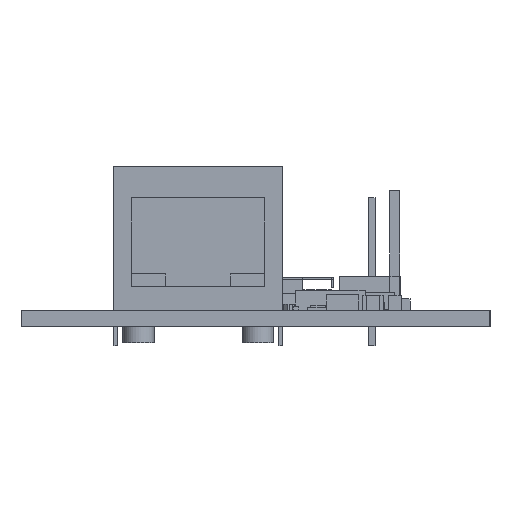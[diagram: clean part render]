
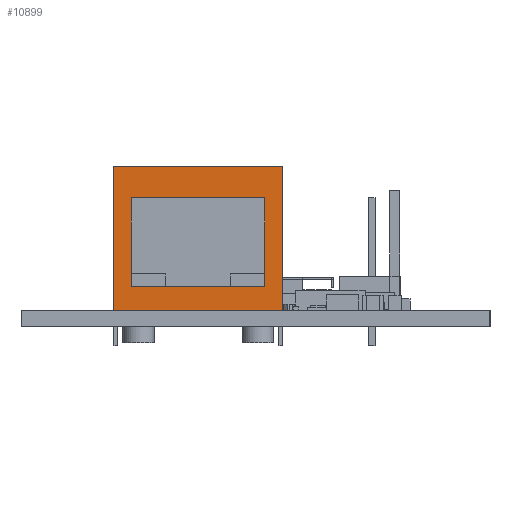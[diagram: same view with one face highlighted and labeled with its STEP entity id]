
A CAD part, left-side view. The second image highlights one B-rep face of the part: STEP entity #10899.
In plain terms, the highlighted planar face has unit normal (-1, 0, 0).
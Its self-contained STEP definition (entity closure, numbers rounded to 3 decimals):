
#10820=DIRECTION('',(0.,0.,-1.));
#10821=VECTOR('',#10820,13.84);
#10822=CARTESIAN_POINT('',(-10.8,-8.13,13.84));
#10823=LINE('',#10822,#10821);
#10824=DIRECTION('',(0.,1.,0.));
#10825=VECTOR('',#10824,16.26);
#10826=CARTESIAN_POINT('',(-10.8,-8.13,0.));
#10827=LINE('',#10826,#10825);
#10828=DIRECTION('',(0.,0.,-1.));
#10829=VECTOR('',#10828,13.84);
#10830=CARTESIAN_POINT('',(-10.8,8.13,13.84));
#10831=LINE('',#10830,#10829);
#10852=DIRECTION('',(0.,-1.,0.));
#10853=VECTOR('',#10852,16.26);
#10854=CARTESIAN_POINT('',(-10.8,8.13,13.84));
#10855=LINE('',#10854,#10853);
#10868=CARTESIAN_POINT('',(-10.8,8.13,13.84));
#10869=CARTESIAN_POINT('',(-10.8,8.13,0.));
#10870=VERTEX_POINT('',#10868);
#10871=VERTEX_POINT('',#10869);
#10872=CARTESIAN_POINT('',(-10.8,-8.13,13.84));
#10873=VERTEX_POINT('',#10872);
#10874=CARTESIAN_POINT('',(-10.8,-8.13,0.));
#10875=VERTEX_POINT('',#10874);
#10884=CARTESIAN_POINT('',(-10.8,8.13,0.));
#10885=DIRECTION('',(1.,0.,0.));
#10886=DIRECTION('',(0.,-1.,0.));
#10887=AXIS2_PLACEMENT_3D('',#10884,#10885,#10886);
#10888=PLANE('',#10887);
#10890=ORIENTED_EDGE('',*,*,#10889,.F.);
#10892=ORIENTED_EDGE('',*,*,#10891,.T.);
#10894=ORIENTED_EDGE('',*,*,#10893,.T.);
#10896=ORIENTED_EDGE('',*,*,#10895,.T.);
#10897=EDGE_LOOP('',(#10890,#10892,#10894,#10896));
#10898=FACE_OUTER_BOUND('',#10897,.F.);
#10899=ADVANCED_FACE('',(#10898),#10888,.F.);
#10889=EDGE_CURVE('',#10870,#10871,#10831,.T.);
#10891=EDGE_CURVE('',#10870,#10873,#10855,.T.);
#10893=EDGE_CURVE('',#10873,#10875,#10823,.T.);
#10895=EDGE_CURVE('',#10875,#10871,#10827,.T.);
